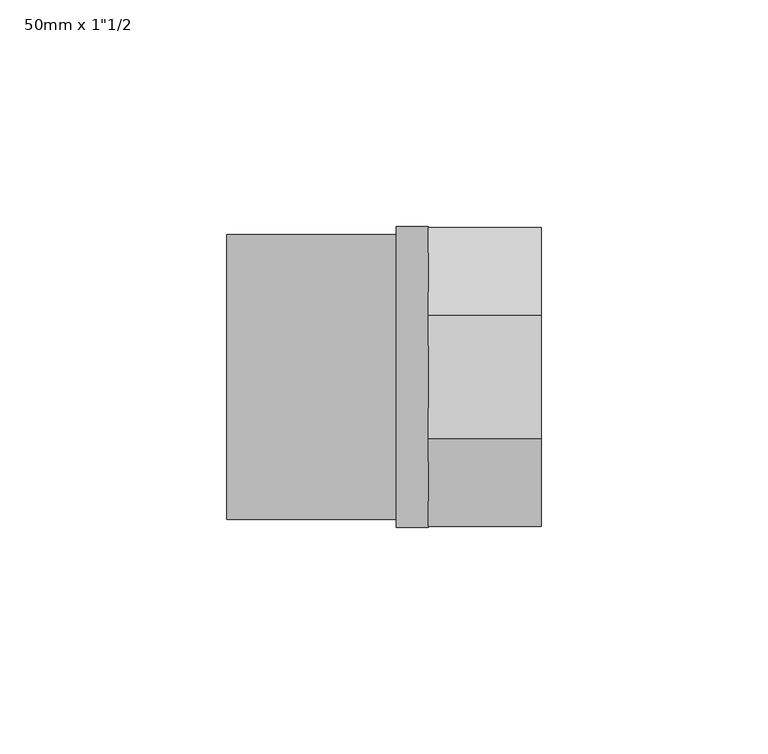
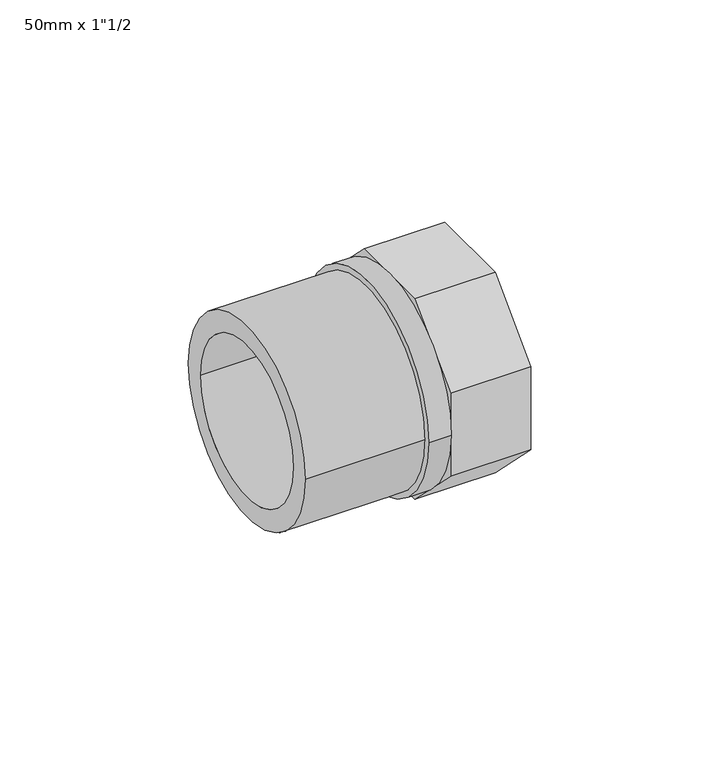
"""IFC4 building model written with IfcOpenShell, lengths in millimetres: pipe fitting geometry."""

import ifcopenshell
import ifcopenshell.guid

model = None  # the IFC model being written
_history = None  # IfcOwnerHistory: only IFC2X3 demands one
_inside = {}  # id of a spatial element -> (the spatial element, [elements in it])
_under = {}  # id of a project, library or spatial element -> (it, [spatial elements below it])
_declared = {}  # id of a project -> (the project, [libraries it declares])
_typed = {}  # id of a type object -> (the type object, [elements of that type])
_made_of = {}  # id of a material, layer set ... -> (it, [elements and type objects made of it])


def new_model(schema):
    """Start an empty IFC model of exactly this schema.

    Asked for "IFC4X3", IfcOpenShell would pick the latest addendum, in which some entities
    have other attributes; the version numbers below select the first issue.
    IFC2X3 requires an IfcOwnerHistory on every rooted entity: one is made here for all.
    """
    global model, _history
    if schema == "IFC4X3":
        model = ifcopenshell.file(schema_version=(4, 3, 0, 0))
    else:
        model = ifcopenshell.file(schema=schema)
    _inside.clear()
    _under.clear()
    _declared.clear()
    _typed.clear()
    _made_of.clear()
    _history = None
    if model.schema == "IFC2X3":
        org = make("IfcOrganization", Name="unknown")
        user = make(
            "IfcPersonAndOrganization",
            ThePerson=make("IfcPerson", FamilyName="unknown"),
            TheOrganization=org,
        )
        app = make(
            "IfcApplication",
            ApplicationDeveloper=org,
            Version="unknown",
            ApplicationFullName="unknown",
            ApplicationIdentifier="unknown",
        )
        _history = make(
            "IfcOwnerHistory",
            OwningUser=user,
            OwningApplication=app,
            ChangeAction="ADDED",
            CreationDate=0,
        )
    return model


def make(cls, **values):
    """One entity of the class cls with the attributes given. An attribute that is None is left unset."""
    return model.create_entity(
        cls, **{name: value for name, value in values.items() if value is not None}
    )


def rooted(cls, **values):
    """An entity with a GlobalId (a new one), such as an element, a storey or a relation."""
    return make(cls, GlobalId=ifcopenshell.guid.new(), OwnerHistory=_history, **values)


def si_unit(unit_type, name, prefix=None):
    """IfcSIUnit, for example si_unit("LENGTHUNIT", "METRE", prefix="MILLI")."""
    return make("IfcSIUnit", UnitType=unit_type, Prefix=prefix, Name=name)


def assignment(units):
    """IfcUnitAssignment: the units of a project."""
    return None if units is None else make("IfcUnitAssignment", Units=units)


def point(xyz):
    """IfcCartesianPoint."""
    return None if xyz is None else make("IfcCartesianPoint", Coordinates=xyz)


def direction(xyz):
    """IfcDirection."""
    return None if xyz is None else make("IfcDirection", DirectionRatios=xyz)


def frame(location, z_axis=None, x_axis=None):
    """IfcAxis2Placement3D, a coordinate frame: its origin and axes. An axis left out is left unset."""
    return make(
        "IfcAxis2Placement3D",
        Location=point(location),
        Axis=direction(z_axis),
        RefDirection=direction(x_axis),
    )


def frame_2d(location, x_axis=None):
    """IfcAxis2Placement2D, a coordinate frame in the plane: its origin and x axis."""
    return make(
        "IfcAxis2Placement2D", Location=point(location), RefDirection=direction(x_axis)
    )


def origin():
    """The frame at (0, 0, 0) with its axes left unset."""
    return frame((0.0, 0.0, 0.0))


def origin_2d():
    """The frame at (0, 0) in the plane with its x axis left unset."""
    return frame_2d((0.0, 0.0))


def place(relative_to, where):
    """IfcLocalPlacement: puts the frame where relative to a parent placement (None: the world)."""
    return make(
        "IfcLocalPlacement", PlacementRelTo=relative_to, RelativePlacement=where
    )


def context(
    kind, dimensions, precision=None, world=None, true_north=None, identifier=None
):
    """IfcGeometricRepresentationContext, for example the 3D "Model" context."""
    return make(
        "IfcGeometricRepresentationContext",
        ContextIdentifier=identifier,
        ContextType=kind,
        CoordinateSpaceDimension=dimensions,
        Precision=precision,
        WorldCoordinateSystem=world,
        TrueNorth=true_north,
    )


def project(units=None, contexts=None):
    """IfcProject with its units and contexts."""
    return rooted(
        "IfcProject",
        Name="project",
        RepresentationContexts=contexts,
        UnitsInContext=assignment(units),
    )


def spatial(cls, under=None, at=None, **own):
    """A site, building, storey or space (cls), placed at a placement, below another one or the project."""
    s = rooted(cls, ObjectPlacement=at, **own)
    if under is not None:
        _under.setdefault(under.id(), (under, []))[1].append(s)
    return s


def polyline(points):
    """IfcPolyline through the points."""
    return make("IfcPolyline", Points=[point(p) for p in points])


def circle_curve(where, radius):
    """IfcCircle in the frame where."""
    return make("IfcCircle", Position=where, Radius=radius)


def trimmed(basis, trim1, trim2, sense, master):
    """IfcTrimmedCurve: the piece of a basis curve between two trims."""
    return make(
        "IfcTrimmedCurve",
        BasisCurve=basis,
        Trim1=trim1,
        Trim2=trim2,
        SenseAgreement=sense,
        MasterRepresentation=master,
    )


def segment(curve, same_sense, transition):
    """IfcCompositeCurveSegment."""
    return make(
        "IfcCompositeCurveSegment",
        Transition=transition,
        SameSense=same_sense,
        ParentCurve=curve,
    )


def composite_curve(segments, self_intersect=None):
    """IfcCompositeCurve: segments joined end to end."""
    return make("IfcCompositeCurve", Segments=segments, SelfIntersect=self_intersect)


def outline(outer, holes=None, kind="AREA"):
    """IfcArbitraryClosedProfileDef: a profile drawn as a closed curve; with holes, ...WithVoids."""
    if holes is None:
        return make("IfcArbitraryClosedProfileDef", ProfileType=kind, OuterCurve=outer)
    return make(
        "IfcArbitraryProfileDefWithVoids",
        ProfileType=kind,
        OuterCurve=outer,
        InnerCurves=holes,
    )


def extrude(swept, where, along, depth):
    """IfcExtrudedAreaSolid: the profile swept, set in the frame where, extruded along a direction by depth."""
    return make(
        "IfcExtrudedAreaSolid",
        SweptArea=swept,
        Position=where,
        ExtrudedDirection=direction(along),
        Depth=depth,
    )


def shape(context_of_items, identifier, shape_type, items):
    """IfcShapeRepresentation: the items that make up one representation, for example the "Body"."""
    return make(
        "IfcShapeRepresentation",
        ContextOfItems=context_of_items,
        RepresentationIdentifier=identifier,
        RepresentationType=shape_type,
        Items=items,
    )


def source(mapping_origin, context_of_items, identifier, shape_type, items):
    """IfcRepresentationMap: a shape defined once, which mapped items show again and again."""
    return make(
        "IfcRepresentationMap",
        MappingOrigin=mapping_origin,
        MappedRepresentation=shape(context_of_items, identifier, shape_type, items),
    )


def transform(
    local_origin,
    x_axis=None,
    y_axis=None,
    z_axis=None,
    scale=None,
    scale2=None,
    scale3=None,
    uniform=True,
):
    """IfcCartesianTransformationOperator3D, or its non-uniform kind. x_axis, y_axis, z_axis: its Axis1, 2, 3."""
    if uniform:
        return make(
            "IfcCartesianTransformationOperator3D",
            Axis1=direction(x_axis),
            Axis2=direction(y_axis),
            LocalOrigin=point(local_origin),
            Scale=scale,
            Axis3=direction(z_axis),
        )
    return make(
        "IfcCartesianTransformationOperator3DnonUniform",
        Axis1=direction(x_axis),
        Axis2=direction(y_axis),
        LocalOrigin=point(local_origin),
        Scale=scale,
        Axis3=direction(z_axis),
        Scale2=scale2,
        Scale3=scale3,
    )


def mapped(mapping_source, mapping_target):
    """IfcMappedItem: shows the shape of a source again, moved by a transform."""
    return make(
        "IfcMappedItem", MappingSource=mapping_source, MappingTarget=mapping_target
    )


def made_of(thing, what):
    """Note that an element or type object is made of a material, layer set ...; save() writes the relation."""
    if what is not None:
        _made_of.setdefault(what.id(), (what, []))[1].append(thing)
    return thing


def element(
    cls,
    number,
    at=None,
    inside=None,
    cuts=None,
    type_object=None,
    material=None,
    context=None,
    identifier="Body",
    shape_type=None,
    held_by="IfcProductDefinitionShape",
    body=None,
    shapes=None,
    **own,
):
    """One element of the class cls, such as IfcWall. Its Tag is "e" and its number.

    at: its placement. inside: the storey or other place that contains it. cuts: it is an
    opening in that element (IfcRelVoidsElement). A single representation is given by context,
    identifier, shape_type and body (its items); several are given by shapes. held_by: the class
    of the entity that holds the representations. save() writes the other relations.
    """
    e = rooted(cls, Tag="e%d" % number, ObjectPlacement=at, **own)
    if body is not None:
        shapes = [shape(context, identifier, shape_type, body)]
    if shapes is not None:
        e.Representation = make(held_by, Representations=shapes)
    if inside is not None:
        _inside.setdefault(inside.id(), (inside, []))[1].append(e)
    if cuts is not None:
        rooted(
            "IfcRelVoidsElement", RelatingBuildingElement=cuts, RelatedOpeningElement=e
        )
    if type_object is not None:
        _typed.setdefault(type_object.id(), (type_object, []))[1].append(e)
    return made_of(e, material)


def aggregate(whole, parts):
    """IfcRelAggregates: a whole, such as a stair, and the parts it consists of."""
    return rooted("IfcRelAggregates", RelatingObject=whole, RelatedObjects=parts)


def save(model, path):
    """Write the relations noted so far, then the file.

    IfcRelAggregates (storeys below a building ...), IfcRelContainedInSpatialStructure (elements
    in a storey), IfcRelDefinesByType, IfcRelAssociatesMaterial and IfcRelDeclares: one each for
    every whole, place, type object, material and project.
    """
    for whole, parts in _under.values():
        aggregate(whole, parts)
    for where, things in _inside.values():
        rooted(
            "IfcRelContainedInSpatialStructure",
            RelatedElements=things,
            RelatingStructure=where,
        )
    for kind, things in _typed.values():
        rooted("IfcRelDefinesByType", RelatedObjects=things, RelatingType=kind)
    for what, things in _made_of.values():
        rooted("IfcRelAssociatesMaterial", RelatedObjects=things, RelatingMaterial=what)
    for by, libraries in _declared.values():
        rooted("IfcRelDeclares", RelatingContext=by, RelatedDefinitions=libraries)
    model.write(path)


def plane_surface(at):
    """IfcPlane: the flat surface through the origin of the frame at, square to its z axis."""
    return make("IfcPlane", Position=at)


def revolved_surface(curve, axis_point, axis_direction):
    """IfcSurfaceOfRevolution: the curve turned about the line through axis_point along axis_direction."""
    return make(
        "IfcSurfaceOfRevolution",
        SweptCurve=make("IfcArbitraryOpenProfileDef", ProfileType="CURVE", Curve=curve),
        AxisPosition=make("IfcAxis1Placement", Location=point(axis_point), Axis=direction(axis_direction)),
    )


def advanced_brep(points, edges, surfaces, faces):
    """IfcAdvancedBrep: a solid bounded by faces that lie on surfaces and meet in shared edges.

    An edge is (start, end): straight between two places in points (the first is 0);
    or (start, end, curve); or (start, end, curve, False) where it runs against its curve.
    A face is (place in surfaces, loops), or (place, loops, False) where it looks against
    its surface's normal. A loop lists edges by number (the first is 1), with a minus sign
    where the edge is run from its end to its start. The first loop is the outer one.
    """
    corners = [point(p) for p in points]
    vertices = [make("IfcVertexPoint", VertexGeometry=c) for c in corners]
    made = []
    for start, end, *more in edges:
        made.append(
            make(
                "IfcEdgeCurve",
                EdgeStart=vertices[start],
                EdgeEnd=vertices[end],
                EdgeGeometry=more[0] if more else make("IfcPolyline", Points=[corners[start], corners[end]]),
                SameSense=more[1] if len(more) > 1 else True,
            )
        )
    hull = []
    for where, loops, *sense in faces:
        bounds = []
        for j, loop in enumerate(loops):
            ring = [make("IfcOrientedEdge", EdgeElement=made[abs(k) - 1], Orientation=k > 0) for k in loop]
            bounds.append(
                make(
                    "IfcFaceOuterBound" if j == 0 else "IfcFaceBound",
                    Bound=make("IfcEdgeLoop", EdgeList=ring),
                    Orientation=True,
                )
            )
        hull.append(make("IfcAdvancedFace", Bounds=bounds, FaceSurface=surfaces[where], SameSense=sense[0] if sense else True))
    return make("IfcAdvancedBrep", Outer=make("IfcClosedShell", CfsFaces=hull))


def pipe_fitting_64b93f67(model_context):
    return source(origin(), model_context, "Body", "SolidModel", [
        extrude(outline(composite_curve([segment(trimmed(circle_curve(origin_2d(), 33.25), [point((-33.25, 0.0))], [point((33.25, 0.0))], False, "CARTESIAN"), True, "CONTINUOUS"), segment(trimmed(circle_curve(origin_2d(), 33.25), [point((33.25, 0.0))], [point((-33.25, 0.0))], False, "CARTESIAN"), True, "CONTINUOUS")], self_intersect=False), holes=[composite_curve([segment(trimmed(circle_curve(origin_2d(), 19.5), [point((-19.5, 0.0))], [point((19.5, 0.0))], True, "CARTESIAN"), True, "CONTINUOUS"), segment(trimmed(circle_curve(origin_2d(), 19.5), [point((19.5, 0.0))], [point((-19.5, 0.0))], True, "CARTESIAN"), True, "CONTINUOUS")], self_intersect=False)]), frame((18.75, 0.0, 0.0), z_axis=(1.0, 0.0, 0.0), x_axis=(0.0, 1.0, 0.0)), (0.0, 0.0, 1.0), 7.0),
        advanced_brep(
        [(25.75, 13.6690476, 33.0), (25.75, 33.0, 13.6690476), (25.75, 33.0, -13.6690476), (25.75, 13.6690476, -33.0), (25.75, -13.6690476, -33.0), (25.75, -33.0, -13.6690476), (25.75, -33.0, 13.6690476), (25.75, -13.6690476, 33.0), (25.75, -19.5, 0.0), (25.75, 19.5, 0.0), (50.75, 13.6690476, 33.0), (50.75, -13.6690476, 33.0), (50.75, -33.0, 13.6690476), (50.75, -33.0, -13.6690476), (50.75, -13.6690476, -33.0), (50.75, 13.6690476, -33.0), (50.75, 33.0, -13.6690476), (50.75, 33.0, 13.6690476), (50.75, 24.0, 0.0), (50.75, -24.0, 0.0), (50.55, 24.0, 0.0), (50.55, -24.0, 0.0), (50.55, 19.5, 0.0), (50.55, -19.5, 0.0)],
        [
            (0, 1),
            (1, 2),
            (2, 3),
            (3, 4),
            (4, 5),
            (5, 6),
            (6, 7),
            (7, 0),
            (8, 9, circle_curve(frame((25.75, 0.0, 0.0), z_axis=(1.0, 0.0, 0.0), x_axis=(0.0, -1.0, 0.0)), 19.5)),
            (9, 8, circle_curve(frame((25.75, 0.0, 0.0), z_axis=(1.0, 0.0, 0.0), x_axis=(0.0, -1.0, 0.0)), 19.5)),
            (10, 11),
            (11, 12),
            (12, 13),
            (13, 14),
            (14, 15),
            (15, 16),
            (16, 17),
            (17, 10),
            (18, 19, circle_curve(frame((50.75, 0.0, 0.0), z_axis=(-1.0, 0.0, 0.0), x_axis=(0.0, -1.0, 0.0)), 24.0)),
            (19, 18, circle_curve(frame((50.75, 0.0, 0.0), z_axis=(-1.0, 0.0, 0.0), x_axis=(0.0, -1.0, 0.0)), 24.0)),
            (0, 10),
            (17, 1),
            (16, 2),
            (15, 3),
            (14, 4),
            (13, 5),
            (12, 6),
            (11, 7),
            (20, 21, circle_curve(frame((50.55, 0.0, 0.0), z_axis=(1.0, 0.0, 0.0), x_axis=(0.0, -1.0, 0.0)), 24.0)),
            (21, 20, circle_curve(frame((50.55, 0.0, 0.0), z_axis=(1.0, 0.0, 0.0), x_axis=(0.0, -1.0, 0.0)), 24.0)),
            (22, 23, circle_curve(frame((50.55, 0.0, 0.0), z_axis=(-1.0, 0.0, 0.0), x_axis=(0.0, -1.0, 0.0)), 19.5)),
            (23, 22, circle_curve(frame((50.55, 0.0, 0.0), z_axis=(-1.0, 0.0, 0.0), x_axis=(0.0, -1.0, 0.0)), 19.5)),
            (21, 19),
            (18, 20),
            (22, 9),
            (8, 23),
        ],
        [
            plane_surface(frame((25.75, 0.0, 0.0), z_axis=(-1.0, 0.0, 0.0), x_axis=(0.0, 0.0, 1.0))),
            plane_surface(frame((50.75, 0.0, 0.0), z_axis=(1.0, 0.0, 0.0), x_axis=(0.0, 0.0, 1.0))),
            plane_surface(frame((25.75, 13.6690476, 33.0), z_axis=(0.0, 0.7071067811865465, 0.7071067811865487), x_axis=(1.0, 0.0, 0.0))),
            plane_surface(frame((25.75, 33.0, 13.6690476), z_axis=(0.0, 1.0, 0.0), x_axis=(1.0, 0.0, 0.0))),
            plane_surface(frame((25.75, 33.0, -13.6690476), z_axis=(0.0, 0.7071067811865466, -0.7071067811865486), x_axis=(1.0, 0.0, 0.0))),
            plane_surface(frame((25.75, 13.6690476, -33.0), z_axis=(0.0, 0.0, -1.0), x_axis=(1.0, 0.0, 0.0))),
            plane_surface(frame((25.75, -13.6690476, -33.0), z_axis=(0.0, -0.7071067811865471, -0.7071067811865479), x_axis=(1.0, 0.0, 0.0))),
            plane_surface(frame((25.75, -33.0, -13.6690476), z_axis=(0.0, -1.0, 0.0), x_axis=(1.0, 0.0, 0.0))),
            plane_surface(frame((25.75, -33.0, 13.6690476), z_axis=(0.0, -0.7071067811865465, 0.7071067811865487), x_axis=(1.0, 0.0, 0.0))),
            plane_surface(frame((25.75, -13.6690476, 33.0), z_axis=(0.0, 0.0, 1.0), x_axis=(1.0, 0.0, 0.0))),
            plane_surface(frame((50.55, -24.0, 0.0), z_axis=(1.0, 0.0, 0.0), x_axis=(0.0, 0.0, 1.0))),
            revolved_surface(polyline([(50.55, -24.0, 0.0), (50.75, -24.0, 0.0)]), (50.75, 0.0, 0.0), (-1.0, 0.0, 0.0)),
            revolved_surface(polyline([(25.75, -19.5, 0.0), (50.55, -19.5, 0.0)]), (50.75, 0.0, 0.0), (-1.0, 0.0, 0.0)),
        ],
        [
            (0, [[1, 2, 3, 4, 5, 6, 7, 8], [9, 10]]),
            (1, [[11, 12, 13, 14, 15, 16, 17, 18], [19, 20]]),
            (2, [[-1, 21, -18, 22]]),
            (3, [[-2, -22, -17, 23]]),
            (4, [[-3, -23, -16, 24]]),
            (5, [[-4, -24, -15, 25]]),
            (6, [[-5, -25, -14, 26]]),
            (7, [[-6, -26, -13, 27]]),
            (8, [[-7, -27, -12, 28]]),
            (9, [[-8, -28, -11, -21]]),
            (10, [[29, 30], [31, 32]]),
            (11, [[-30, 33, -19, 34]]),
            (11, [[-29, -34, -20, -33]]),
            (12, [[35, -9, 36, -31]]),
            (12, [[-35, -32, -36, -10]]),
        ],
    ),
        extrude(outline(composite_curve([segment(trimmed(circle_curve(origin_2d(), 31.5), [point((-31.5, 0.0))], [point((31.5, 0.0))], False, "CARTESIAN"), True, "CONTINUOUS"), segment(trimmed(circle_curve(origin_2d(), 31.5), [point((31.5, 0.0))], [point((-31.5, 0.0))], False, "CARTESIAN"), True, "CONTINUOUS")], self_intersect=False), holes=[composite_curve([segment(trimmed(circle_curve(origin_2d(), 25.0), [point((-25.0, 0.0))], [point((25.0, 0.0))], True, "CARTESIAN"), True, "CONTINUOUS"), segment(trimmed(circle_curve(origin_2d(), 25.0), [point((25.0, 0.0))], [point((-25.0, 0.0))], True, "CARTESIAN"), True, "CONTINUOUS")], self_intersect=False)]), frame((-18.75, 0.0, 0.0), z_axis=(1.0, 0.0, 0.0), x_axis=(0.0, 1.0, 0.0)), (0.0, 0.0, 1.0), 37.5),
    ])


if __name__ == "__main__":
    model = new_model("IFC4")
    model_context = context("Model", 3, world=origin())
    ifc_project = project(units=[si_unit("LENGTHUNIT", "METRE", prefix="MILLI")], contexts=[model_context])
    site = spatial("IfcSite", under=ifc_project)
    building = spatial("IfcBuilding", under=site)
    placement = place(None, origin())
    pipe_fitting_shape = pipe_fitting_64b93f67(model_context)
    element("IfcPipeFitting", 1, ObjectType="PipeFitting_HTA_CPVC_ThreadedAdaptors : 50mm x 1\"1/2", at=placement, inside=building, context=model_context, shape_type="MappedRepresentation", body=[
        mapped(pipe_fitting_shape, transform((0.0, 0.0, 0.0), x_axis=(1.0, 0.0, 0.0), y_axis=(0.0, 1.0, 0.0), z_axis=(0.0, 0.0, 1.0))),
    ])
    save(model, "model.ifc")
